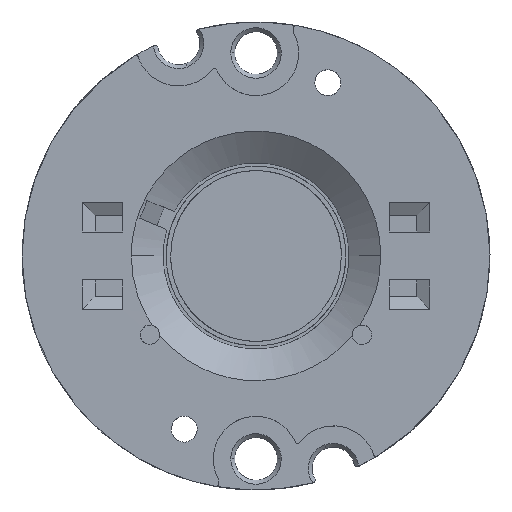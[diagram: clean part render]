
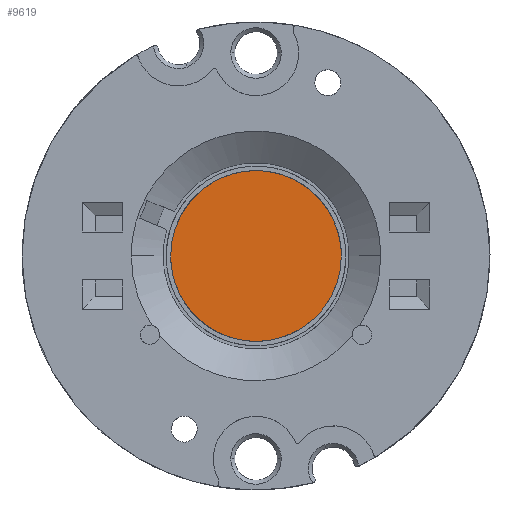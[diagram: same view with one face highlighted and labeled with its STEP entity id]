
A CAD part, top view. The second image highlights one B-rep face of the part: STEP entity #9619.
In plain terms, the highlighted planar face has unit normal (0, 0, 1).
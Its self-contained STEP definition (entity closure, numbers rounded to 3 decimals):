
#26 = CARTESIAN_POINT ( 'NONE',  ( -6.428, -1.728, 1.54 ) ) ;
#635 = CARTESIAN_POINT ( 'NONE',  ( 3.324, 5.767, 1.54 ) ) ;
#658 = ORIENTED_EDGE ( 'NONE', *, *, #5650, .F. ) ;
#846 = CARTESIAN_POINT ( 'NONE',  ( -5.767, -3.324, 1.54 ) ) ;
#888 = CARTESIAN_POINT ( 'NONE',  ( -5.278, -4.056, 1.54 ) ) ;
#919 = CARTESIAN_POINT ( 'NONE',  ( -4.056, -5.278, 1.54 ) ) ;
#1022 = VERTEX_POINT ( 'NONE', #9053 ) ;
#1502 = CARTESIAN_POINT ( 'NONE',  ( 5.278, 4.056, 1.54 ) ) ;
#1863 = EDGE_CURVE ( 'NONE', #2904, #1022, #7611, .T. ) ;
#2320 = CARTESIAN_POINT ( 'NONE',  ( -6.428, 1.728, 1.54 ) ) ;
#2352 = CARTESIAN_POINT ( 'NONE',  ( 6.428, 1.728, 1.54 ) ) ;
#2532 = CARTESIAN_POINT ( 'NONE',  ( -3.324, -5.767, 1.54 ) ) ;
#2558 = CARTESIAN_POINT ( 'NONE',  ( -1.728, -6.428, 1.54 ) ) ;
#2596 = CARTESIAN_POINT ( 'NONE',  ( -0.864, -6.6, 1.54 ) ) ;
#2904 = VERTEX_POINT ( 'NONE', #8411 ) ;
#3171 = CARTESIAN_POINT ( 'NONE',  ( -5.278, 4.056, 1.54 ) ) ;
#3209 = CARTESIAN_POINT ( 'NONE',  ( 6.6, 0., 1.54 ) ) ;
#3389 = CARTESIAN_POINT ( 'NONE',  ( 0.864, -6.6, 1.54 ) ) ;
#3473 = CARTESIAN_POINT ( 'NONE',  ( 1.728, -6.428, 1.54 ) ) ;
#3492 = CARTESIAN_POINT ( 'NONE',  ( -6.6, 0., 1.54 ) ) ;
#3768 = CARTESIAN_POINT ( 'NONE',  ( 6.6, -6.796, 1.54 ) ) ;
#4063 = CARTESIAN_POINT ( 'NONE',  ( -3.324, 5.767, 1.54 ) ) ;
#4255 = EDGE_LOOP ( 'NONE', ( #658, #9615 ) ) ;
#4649 = DIRECTION ( 'NONE',  ( 0., 1., 0. ) ) ;
#4949 = CARTESIAN_POINT ( 'NONE',  ( -0.864, 6.6, 1.54 ) ) ;
#5176 = CARTESIAN_POINT ( 'NONE',  ( 3.324, -5.767, 1.54 ) ) ;
#5256 = CARTESIAN_POINT ( 'NONE',  ( -6.6, -0.864, 1.54 ) ) ;
#5584 = FACE_OUTER_BOUND ( 'NONE', #4255, .T. ) ;
#5650 = EDGE_CURVE ( 'NONE', #1022, #2904, #7229, .T. ) ;
#5829 = CARTESIAN_POINT ( 'NONE',  ( 1.728, 6.428, 1.54 ) ) ;
#6067 = CARTESIAN_POINT ( 'NONE',  ( 4.056, -5.278, 1.54 ) ) ;
#6652 = CARTESIAN_POINT ( 'NONE',  ( -6.6, 0.864, 1.54 ) ) ;
#6683 = CARTESIAN_POINT ( 'NONE',  ( 4.056, 5.278, 1.54 ) ) ;
#6896 = CARTESIAN_POINT ( 'NONE',  ( 5.278, -4.056, 1.54 ) ) ;
#7229 = B_SPLINE_CURVE_WITH_KNOTS ( 'NONE', 3,
 ( #8973, #6652, #2320, #8370, #3171, #9195, #4063, #10032, #4949, #10856, #5829, #635, #6683, #1502, #7549, #2352, #8404, #3209 ),
 .UNSPECIFIED., .F., .F.,
 ( 4, 2, 2, 2, 2, 2, 2, 2, 4 ),
 ( 0., 0.125, 0.25, 0.375, 0.5, 0.625, 0.75, 0.875, 1. ),
 .UNSPECIFIED. ) ;
#7549 = CARTESIAN_POINT ( 'NONE',  ( 5.767, 3.324, 1.54 ) ) ;
#7611 = B_SPLINE_CURVE_WITH_KNOTS ( 'NONE', 3,
 ( #8619, #8649, #7760, #7722, #6896, #6067, #5176, #3473, #3389, #2596, #2558, #2532, #919, #888, #846, #26, #5256, #3492 ),
 .UNSPECIFIED., .F., .F.,
 ( 4, 2, 2, 2, 2, 2, 2, 2, 4 ),
 ( 0., 0.125, 0.25, 0.375, 0.5, 0.625, 0.75, 0.875, 1. ),
 .UNSPECIFIED. ) ;
#7722 = CARTESIAN_POINT ( 'NONE',  ( 5.767, -3.324, 1.54 ) ) ;
#7760 = CARTESIAN_POINT ( 'NONE',  ( 6.428, -1.728, 1.54 ) ) ;
#8370 = CARTESIAN_POINT ( 'NONE',  ( -5.767, 3.324, 1.54 ) ) ;
#8404 = CARTESIAN_POINT ( 'NONE',  ( 6.6, 0.864, 1.54 ) ) ;
#8411 = CARTESIAN_POINT ( 'NONE',  ( 6.6, 0., 1.54 ) ) ;
#8619 = CARTESIAN_POINT ( 'NONE',  ( 6.6, 0., 1.54 ) ) ;
#8649 = CARTESIAN_POINT ( 'NONE',  ( 6.6, -0.864, 1.54 ) ) ;
#8973 = CARTESIAN_POINT ( 'NONE',  ( -6.6, 0., 1.54 ) ) ;
#9053 = CARTESIAN_POINT ( 'NONE',  ( -6.6, 0., 1.54 ) ) ;
#9174 = AXIS2_PLACEMENT_3D ( 'NONE', #3768, #9763, #4649 ) ;
#9195 = CARTESIAN_POINT ( 'NONE',  ( -4.056, 5.278, 1.54 ) ) ;
#9615 = ORIENTED_EDGE ( 'NONE', *, *, #1863, .F. ) ;
#9619 = ADVANCED_FACE ( 'NONE', ( #5584 ), #10548, .T. ) ;
#9763 = DIRECTION ( 'NONE',  ( 0., 0., 1. ) ) ;
#10032 = CARTESIAN_POINT ( 'NONE',  ( -1.728, 6.428, 1.54 ) ) ;
#10548 = PLANE ( 'NONE',  #9174 ) ;
#10856 = CARTESIAN_POINT ( 'NONE',  ( 0.864, 6.6, 1.54 ) ) ;
